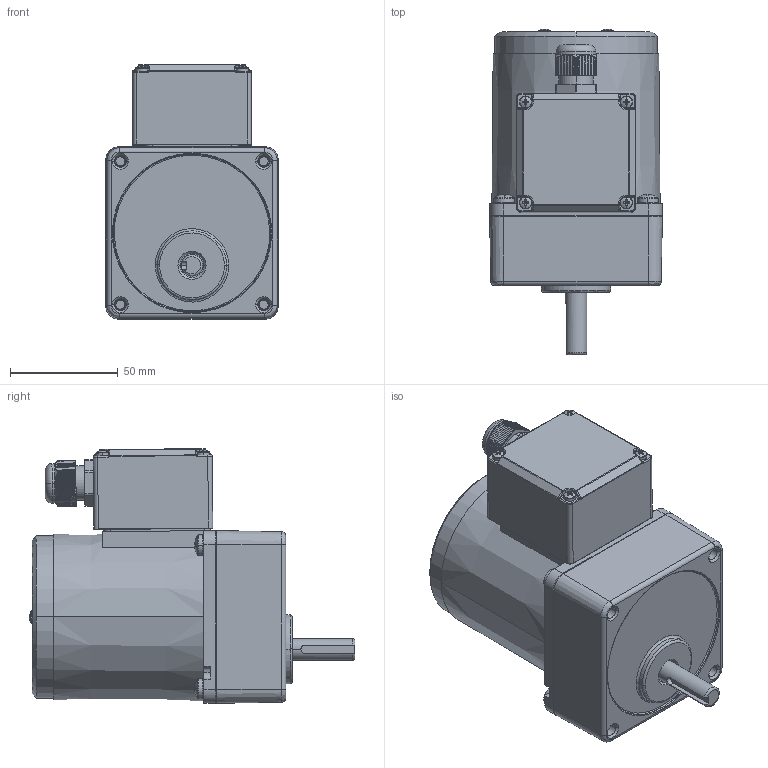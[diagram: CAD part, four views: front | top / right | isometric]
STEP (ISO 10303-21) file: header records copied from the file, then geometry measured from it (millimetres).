
FILE_DESCRIPTION (( 'STEP AP203' ), '1' );
FILE_NAME ('4RK25GN-CT(4GN3K-18K).STEP', '2022-10-28T05:30:22', ( 'Windows User' ), ( 'P R C' ), 'SwSTEP 2.0', 'SolidWorks 2019', '' );
FILE_SCHEMA (( 'CONFIG_CONTROL_DESIGN' ));
Length unit declared in the file: millimetre
Products named in the file (15): ^4IK25GN-CT(4GN3K-18K).STEP_4IK25GN-CT(4GN3K-18K)_4RK25GN-CT(4GN3K-18K)(2)_4RK25GN-CT(4GN3K-18K); 4RK25GN-CT(4GN3K-18K); 4RK25GN-CT(4GN3K-18K)(2)^4RK25GN-CT(4GN3K-18K); ¸´¼þ (3) ^_4IK25GN-CT(4GN3K-18K).STEP_4IK25GN-CT(4GN3K-18K)_4RK25GN-CT(4GN3K-18K)(2)_4RK25GN-CT(4GN3K-18K); 80ZNGB^4RK25GN-CT(4GN3K-18K)(2)_4RK25GN-CT(4GN3K-18K); ¸´¼þ (4) ^_4IK25GN-CT(4GN3K-18K).STEP_4IK25GN-CT(4GN3K-18K)_4RK25GN-CT(4GN3K-18K)(2)_4RK25GN-CT(4GN3K-18K); ¸´¼þ (6) ^_4IK25GN-CT(4GN3K-18K).STEP_4IK25GN-CT(4GN3K-18K)_4RK25GN-CT(4GN3K-18K)(2)_4RK25GN-CT(4GN3K-18K); ¸´¼þ (7) ^_4IK25GN-CT(4GN3K-18K).STEP_4IK25GN-CT(4GN3K-18K)_4RK25GN-CT(4GN3K-18K)(2)_4RK25GN-CT(4GN3K-18K); 4IK25GN-CT(4GN3K-18K)^4RK25GN-CT(4GN3K-18K)(2)_4RK25GN-CT(4GN3K-18K); 4IK25GN-CT(4GN3K-18K).STEP^4IK25GN-CT(4GN3K-18K)_4RK25GN-CT(4GN3K-18K)(2)_4RK25GN-CT(4GN3K-18K); ¸´¼þ (5) ^_4IK25GN-CT(4GN3K-18K).STEP_4IK25GN-CT(4GN3K-18K)_4RK25GN-CT(4GN3K-18K)(2)_4RK25GN-CT(4GN3K-18K); 4GN3K-18K; M3^4RK25GN-CT(4GN3K-18K)(2)_4RK25GN-CT(4GN3K-18K); ^_4IK25GN-CT(4GN3K-18K).STEP_4IK25GN-CT(4GN3K-18K)_4RK25GN-CT(4GN3K-18K)(2)_4RK25GN-CT(4GN3K-18K); ¸´¼þ (2) ^_4IK25GN-CT(4GN3K-18K).STEP_4IK25GN-CT(4GN3K-18K)_4RK25GN-CT(4GN3K-18K)(2)_4RK25GN-CT(4GN3K-18K)
Assembly tree (18 placements, depth 6):
  4RK25GN-CT(4GN3K-18K)
    4RK25GN-CT(4GN3K-18K)(2)^4RK25GN-CT(4GN3K-18K)
      4IK25GN-CT(4GN3K-18K)^4RK25GN-CT(4GN3K-18K)(2)_4RK25GN-CT(4GN3K-18K)
        4IK25GN-CT(4GN3K-18K).STEP^4IK25GN-CT(4GN3K-18K)_4RK25GN-CT(4GN3K-18K)(2)_4RK25GN-CT(4GN3K-18K)
          ^4IK25GN-CT(4GN3K-18K).STEP_4IK25GN-CT(4GN3K-18K)_4RK25GN-CT(4GN3K-18K)(2)_4RK25GN-CT(4GN3K-18K)
            ^_4IK25GN-CT(4GN3K-18K).STEP_4IK25GN-CT(4GN3K-18K)_4RK25GN-CT(4GN3K-18K)(2)_4RK25GN-CT(4GN3K-18K)
            ¸´¼þ (2) ^_4IK25GN-CT(4GN3K-18K).STEP_4IK25GN-CT(4GN3K-18K)_4RK25GN-CT(4GN3K-18K)(2)_4RK25GN-CT(4GN3K-18K)
            ¸´¼þ (3) ^_4IK25GN-CT(4GN3K-18K).STEP_4IK25GN-CT(4GN3K-18K)_4RK25GN-CT(4GN3K-18K)(2)_4RK25GN-CT(4GN3K-18K)
            ¸´¼þ (4) ^_4IK25GN-CT(4GN3K-18K).STEP_4IK25GN-CT(4GN3K-18K)_4RK25GN-CT(4GN3K-18K)(2)_4RK25GN-CT(4GN3K-18K)
            ¸´¼þ (5) ^_4IK25GN-CT(4GN3K-18K).STEP_4IK25GN-CT(4GN3K-18K)_4RK25GN-CT(4GN3K-18K)(2)_4RK25GN-CT(4GN3K-18K)
            ¸´¼þ (6) ^_4IK25GN-CT(4GN3K-18K).STEP_4IK25GN-CT(4GN3K-18K)_4RK25GN-CT(4GN3K-18K)(2)_4RK25GN-CT(4GN3K-18K)
            ¸´¼þ (7) ^_4IK25GN-CT(4GN3K-18K).STEP_4IK25GN-CT(4GN3K-18K)_4RK25GN-CT(4GN3K-18K)(2)_4RK25GN-CT(4GN3K-18K)  x4
      80ZNGB^4RK25GN-CT(4GN3K-18K)(2)_4RK25GN-CT(4GN3K-18K)
      M3^4RK25GN-CT(4GN3K-18K)(2)_4RK25GN-CT(4GN3K-18K)  x2
    4GN3K-18K
Bounding box: 80 x 150.85 x 117.95 mm (x, y, z)
Volume: 446976.6 mm3; surface area: 105063 mm2
Topology: 14 solids, 15 shells, 1965 faces, 5111 edges, 3169 vertices
Faces by surface type: cone 874, cylinder 648, plane 320, torus 66, bspline 29, sphere 28
Entity records: 45223 total; most frequent: CARTESIAN_POINT 10837, DIRECTION 7435, ORIENTED_EDGE 6724, EDGE_CURVE 3362, AXIS2_PLACEMENT_3D 3084, VERTEX_POINT 2110, CIRCLE 1774, EDGE_LOOP 1376
